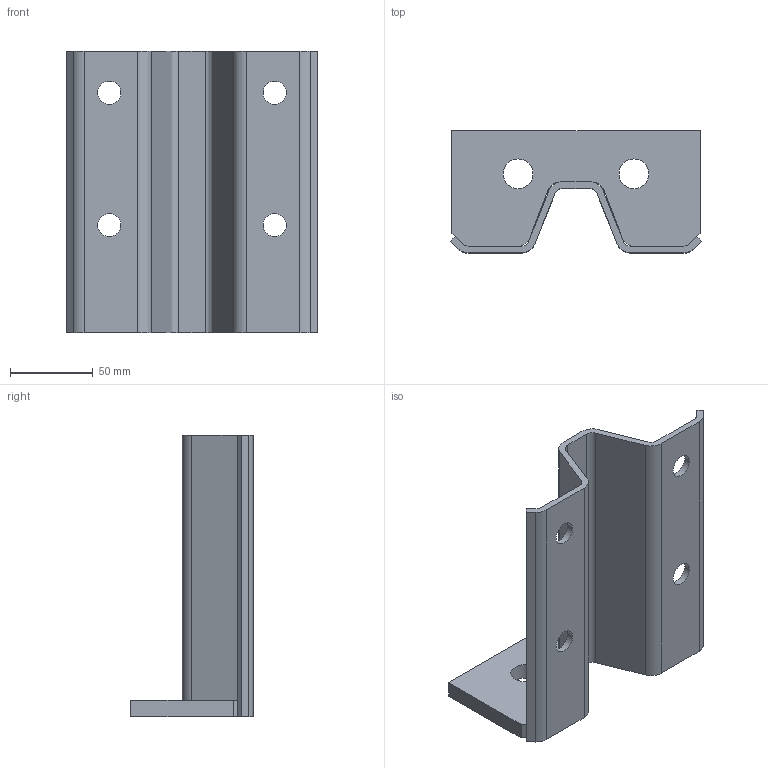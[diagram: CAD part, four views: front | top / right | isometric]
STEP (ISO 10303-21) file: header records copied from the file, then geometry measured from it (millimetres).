
FILE_DESCRIPTION(/* description */ (''),/* implementation_level */ '2;1');
FILE_NAME(/* name */ 'ZB200W70.stp',/* time_stamp */ '2023-07-03T11:22:58+02:00',/* author */ ('woriedl'),/* organization */ (''),/* preprocessor_version */ 'ST-DEVELOPER v19.2',/* originating_system */ 'AutoCAD Mechanical',/* authorisation */ '');
FILE_SCHEMA (('AUTOMOTIVE_DESIGN { 1 0 10303 214 3 1 1 }'));
Length unit declared in the file: centimetre
Products named in the file (1): Product
Bounding box: 151.72 x 74 x 170 mm (x, y, z)
Volume: 216470.5 mm3; surface area: 93317.3 mm2
Topology: 2 solids, 2 shells, 54 faces, 150 edges, 100 vertices
Faces by surface type: plane 30, cylinder 24
Full cylindrical faces by diameter (mm): 14 x4, 18 x2
Entity records: 1788 total; most frequent: DIRECTION 308, CARTESIAN_POINT 305, ORIENTED_EDGE 300, EDGE_CURVE 150, AXIS2_PLACEMENT_3D 103, LINE 102, VECTOR 102, VERTEX_POINT 100
